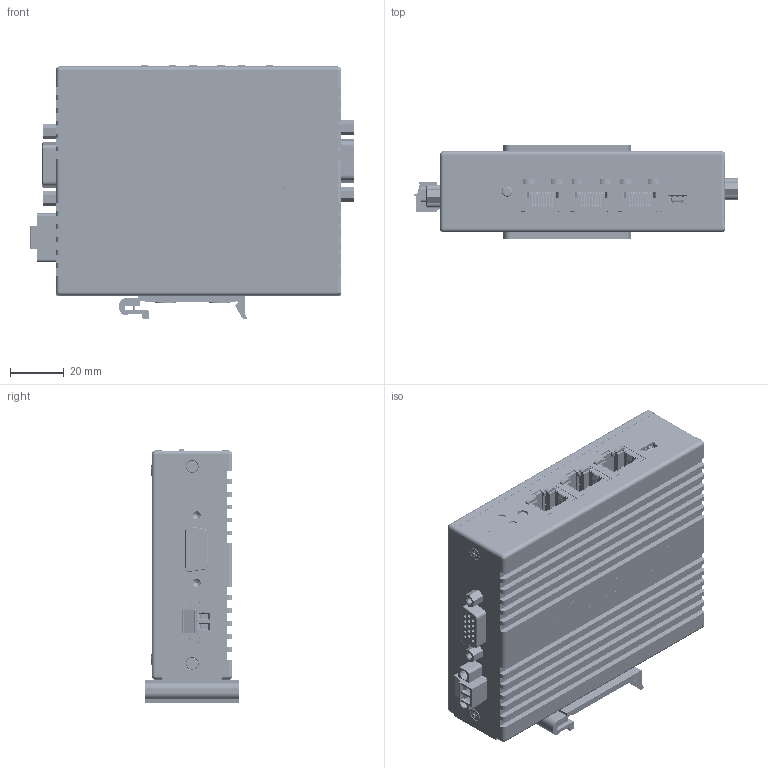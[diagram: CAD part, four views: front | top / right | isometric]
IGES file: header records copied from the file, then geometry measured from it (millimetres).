
Start section: SolidWorks IGES file using analytic representation for surfaces
Global section: file name: H:\ANaivelt\soft MC703\New folder\softMC 703_DIN mount_v01.IGS; native system: SolidWorks 2010; preprocessor: SolidWorks 2010; author: Alexander.Naivelt; date: 180215.082349; units: millimetre
Bounding box: 120.15 x 35 x 94.47 mm (x, y, z)
Surface area: 94839.5 mm2 (no closed solid volume)
Topology: 0 solids, 0 shells, 5999 faces, 53419 edges, 53228 vertices
Faces by surface type: bspline 4817, revolution 1182
